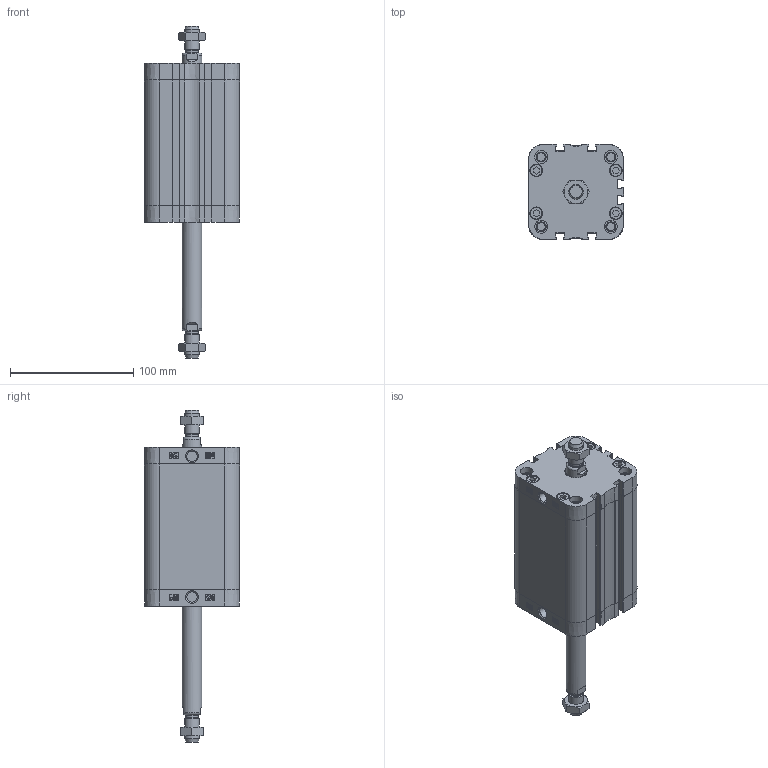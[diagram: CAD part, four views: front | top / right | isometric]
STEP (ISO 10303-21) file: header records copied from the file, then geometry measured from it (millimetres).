
FILE_DESCRIPTION(/* description */ ('Unknown'),/* implementation_level */ '2;1');
FILE_NAME(/* name */ 'ZBF 63_80',/* time_stamp */ '2024-11-18T14:51:27+01:00',/* author */ ('Unknown'),/* organization */ ('Unknown'),/* preprocessor_version */ 'ST-DEVELOPER v16.7',/* originating_system */ 'Solid Edge',/* authorisation */ 'Unknown');
FILE_SCHEMA (('AUTOMOTIVE_DESIGN {1 0 10303 214 3 1 1}'));
Length unit declared in the file: millimetre
Products named in the file (5): ZBF 63_80; Profilrohr; Kolbenstange; Kit; Mutter
Assembly tree (7 placements, depth 2):
  ZBF 63_80
    Profilrohr
    Kolbenstange  x2
    Kit  x2
    Mutter  x2
Bounding box: 77 x 77 x 269 mm (x, y, z)
Volume: 503327 mm3; surface area: 132314.3 mm2
Topology: 7 solids, 7 shells, 811 faces, 2115 edges, 1386 vertices
Faces by surface type: plane 370, cylinder 219, bspline 124, cone 72, torus 26
Full cylindrical faces by diameter (mm): 6.647 x8, 8.566 x2, 9.8 x8, 10 x2, 10.3 x8, 10.5 x8, 10.647 x2, 12 x2, 16 x2, 16.54 x2, 17.7 x2, 18 x2, 20.5 x2, 63 x3
Entity records: 16888 total; most frequent: CARTESIAN_POINT 3469, ORIENTED_EDGE 2314, DIRECTION 2147, EDGE_CURVE 1157, VERTEX_POINT 795, AXIS2_PLACEMENT_3D 742, LINE 663, VECTOR 663
